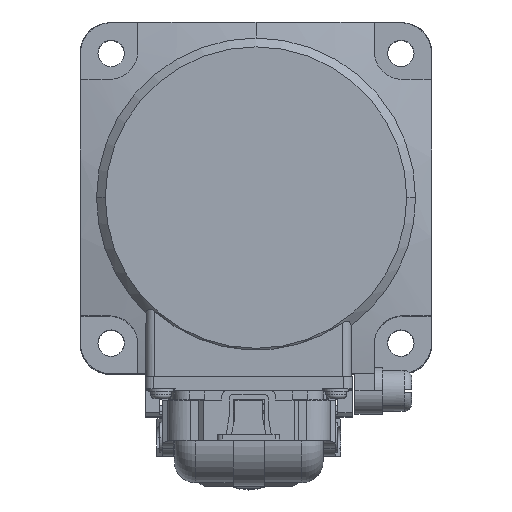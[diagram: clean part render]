
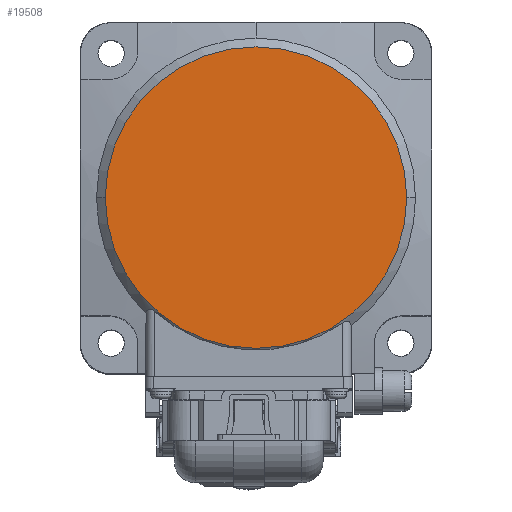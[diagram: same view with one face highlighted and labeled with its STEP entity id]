
A CAD part, top view. The second image highlights one B-rep face of the part: STEP entity #19508.
In plain terms, the highlighted planar face has unit normal (0, 0, 1).
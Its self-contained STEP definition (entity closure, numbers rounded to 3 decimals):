
#1223 = ORIENTED_EDGE ( 'NONE', *, *, #3572, .T. ) ;
#2673 = DIRECTION ( 'NONE',  ( 1., 0., 0. ) ) ;
#3572 = EDGE_CURVE ( 'NONE', #15379, #14462, #18245, .T. ) ;
#3758 = AXIS2_PLACEMENT_3D ( 'NONE', #5522, #8643, #10154 ) ;
#5128 = CARTESIAN_POINT ( 'NONE',  ( 25.75, 0., 74.5 ) ) ;
#5522 = CARTESIAN_POINT ( 'NONE',  ( 0., 0., 74.5 ) ) ;
#6333 = AXIS2_PLACEMENT_3D ( 'NONE', #6774, #14760, #13318 ) ;
#6774 = CARTESIAN_POINT ( 'NONE',  ( 0., 0., 74.5 ) ) ;
#7557 = AXIS2_PLACEMENT_3D ( 'NONE', #19132, #16503, #2673 ) ;
#8643 = DIRECTION ( 'NONE',  ( 0., 0., 1. ) ) ;
#10154 = DIRECTION ( 'NONE',  ( 1., 0., 0. ) ) ;
#13318 = DIRECTION ( 'NONE',  ( -1., 0., 0. ) ) ;
#13696 = CIRCLE ( 'NONE', #7557, 25.75 ) ;
#14462 = VERTEX_POINT ( 'NONE', #16807 ) ;
#14547 = FACE_OUTER_BOUND ( 'NONE', #15200, .T. ) ;
#14760 = DIRECTION ( 'NONE',  ( 0., 0., -1. ) ) ;
#15200 = EDGE_LOOP ( 'NONE', ( #18795, #1223 ) ) ;
#15379 = VERTEX_POINT ( 'NONE', #5128 ) ;
#16161 = PLANE ( 'NONE',  #6333 ) ;
#16503 = DIRECTION ( 'NONE',  ( 0., 0., 1. ) ) ;
#16807 = CARTESIAN_POINT ( 'NONE',  ( -25.75, 0., 74.5 ) ) ;
#17005 = EDGE_CURVE ( 'NONE', #14462, #15379, #13696, .T. ) ;
#18245 = CIRCLE ( 'NONE', #3758, 25.75 ) ;
#18795 = ORIENTED_EDGE ( 'NONE', *, *, #17005, .T. ) ;
#19132 = CARTESIAN_POINT ( 'NONE',  ( 0., 0., 74.5 ) ) ;
#19508 = ADVANCED_FACE ( 'NONE', ( #14547 ), #16161, .F. ) ;
